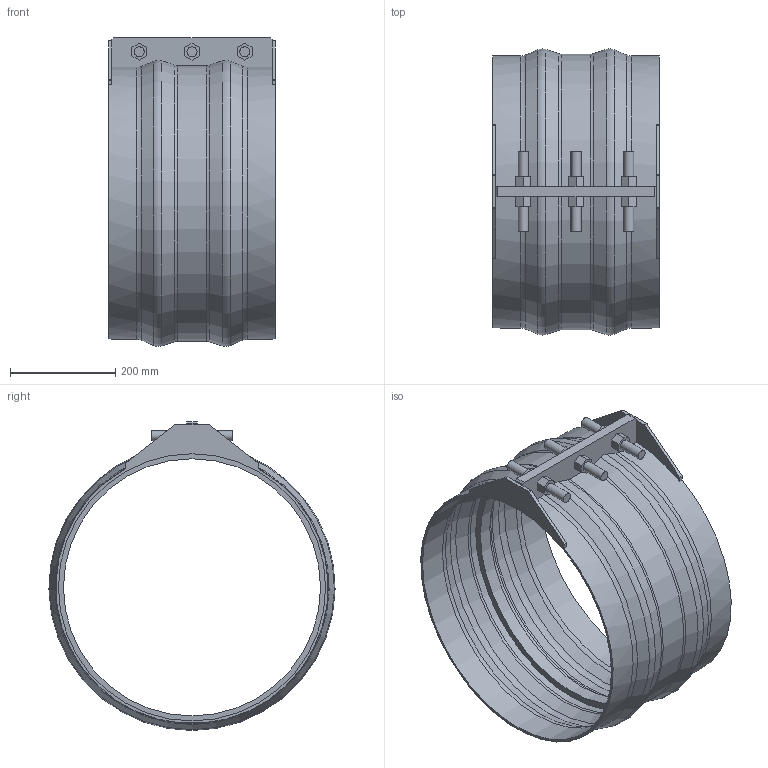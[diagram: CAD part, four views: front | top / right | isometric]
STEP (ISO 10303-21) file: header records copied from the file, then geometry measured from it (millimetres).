
FILE_DESCRIPTION(/* description */ ('VIC RESTRAINED COUPLING STYLE 233 (FLEX) (BRD)','CAx-IF Rec.Pracs.---Representation and Presentation of Product Manufacturing Information (PMI)---4.0---2014-10-13'),/* implementation_level */ '2;1');
FILE_NAME(/* name */ 'C:\Users\Vjadhav\Desktop\CAD for Inventor\Test for STEP\Vivek\Adsk_Inventor_Bolted Sleeve_iParts\STEP\Victaulic_VBSP_Coupling Flexible Restrained_Style 233 (BRD)\Victaulic_VBSP_Coupling Flexible Restrained_Style 233 (BRD)_200psi_20 (500).stp',/* time_stamp */ '2020-09-24T12:29:11+06:00',/* author */ ('Vjadhav'),/* organization */ ('Victaulic'),/* preprocessor_version */ 'ST-DEVELOPER v17.2',/* originating_system */ 'Autodesk Inventor 2019',/* authorisation */ '');
FILE_SCHEMA (('AP242_MANAGED_MODEL_BASED_3D_ENGINEERING_MIM_LF { 1 0 10303 442 1 1 4 }'));
Length unit declared in the file: inch
Products named in the file (1): Style_233_Type_2_200psi-20.0
Bounding box: 317.5 x 544.13 x 587.38 mm (x, y, z)
Volume: 3618910.1 mm3; surface area: 1211915.6 mm2
Topology: 1 solids, 1 shells, 115 faces, 309 edges, 210 vertices
Faces by surface type: plane 73, cylinder 22, torus 12, cone 8
Full cylindrical faces by diameter (mm): 19.05 x6, 488.95 x1, 508 x2, 514.35 x2
Entity records: 3970 total; most frequent: CARTESIAN_POINT 764, DIRECTION 645, ORIENTED_EDGE 618, EDGE_CURVE 309, AXIS2_PLACEMENT_3D 227, VERTEX_POINT 210, LINE 191, VECTOR 191
